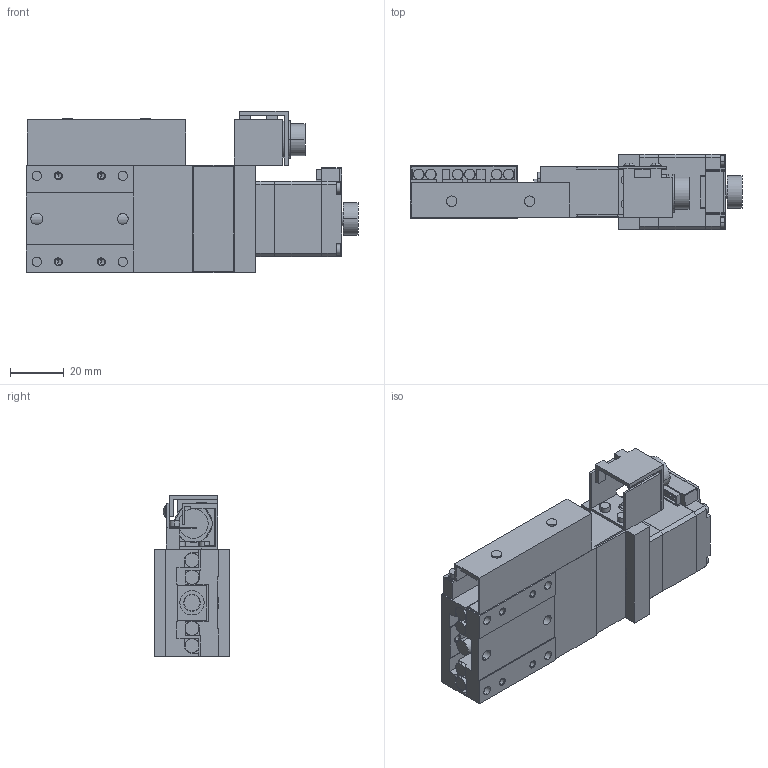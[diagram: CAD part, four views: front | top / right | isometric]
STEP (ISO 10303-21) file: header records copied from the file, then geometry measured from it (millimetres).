
FILE_DESCRIPTION(('STEP AP203'),'1');
FILE_NAME('C:/3D-Trans/3D_PG413M-L□-E+231107.step','2024-02-26T07:32:59',(' '),(' '),'Spatial InterOp 3D',' ',' ');
FILE_SCHEMA(('CONFIG_CONTROL_DESIGN'));
Length unit declared in the file: millimetre
Products named in the file (6): 1; 2; 3; 4; 5; 6
Bounding box: 123.5 x 28 x 60 mm (x, y, z)
Volume: 83264.8 mm3; surface area: 40566.7 mm2
Topology: 6 solids, 6 shells, 636 faces, 1625 edges, 1030 vertices
Faces by surface type: plane 394, cylinder 190, cone 48, sphere 4
Entity records: 19303 total; most frequent: DIRECTION 3371, CARTESIAN_POINT 3273, ORIENTED_EDGE 3202, EDGE_CURVE 1601, AXIS2_PLACEMENT_3D 1128, LINE 1115, VECTOR 1115, VERTEX_POINT 1030
